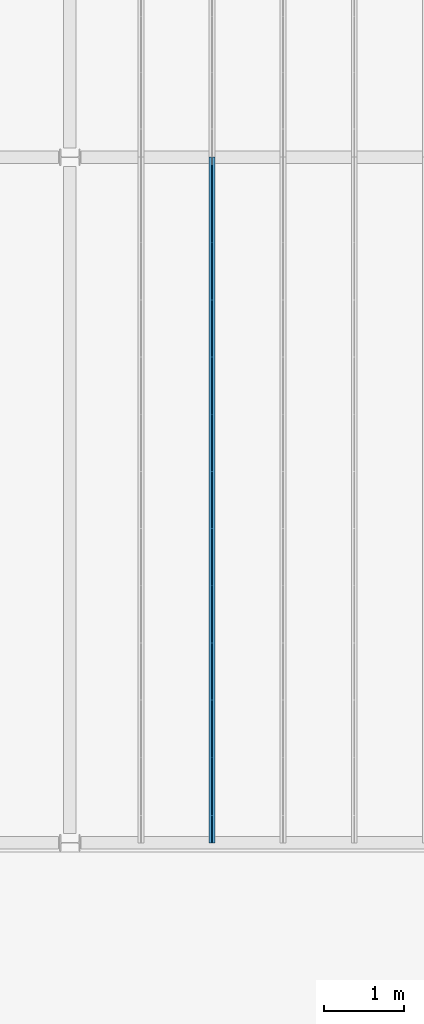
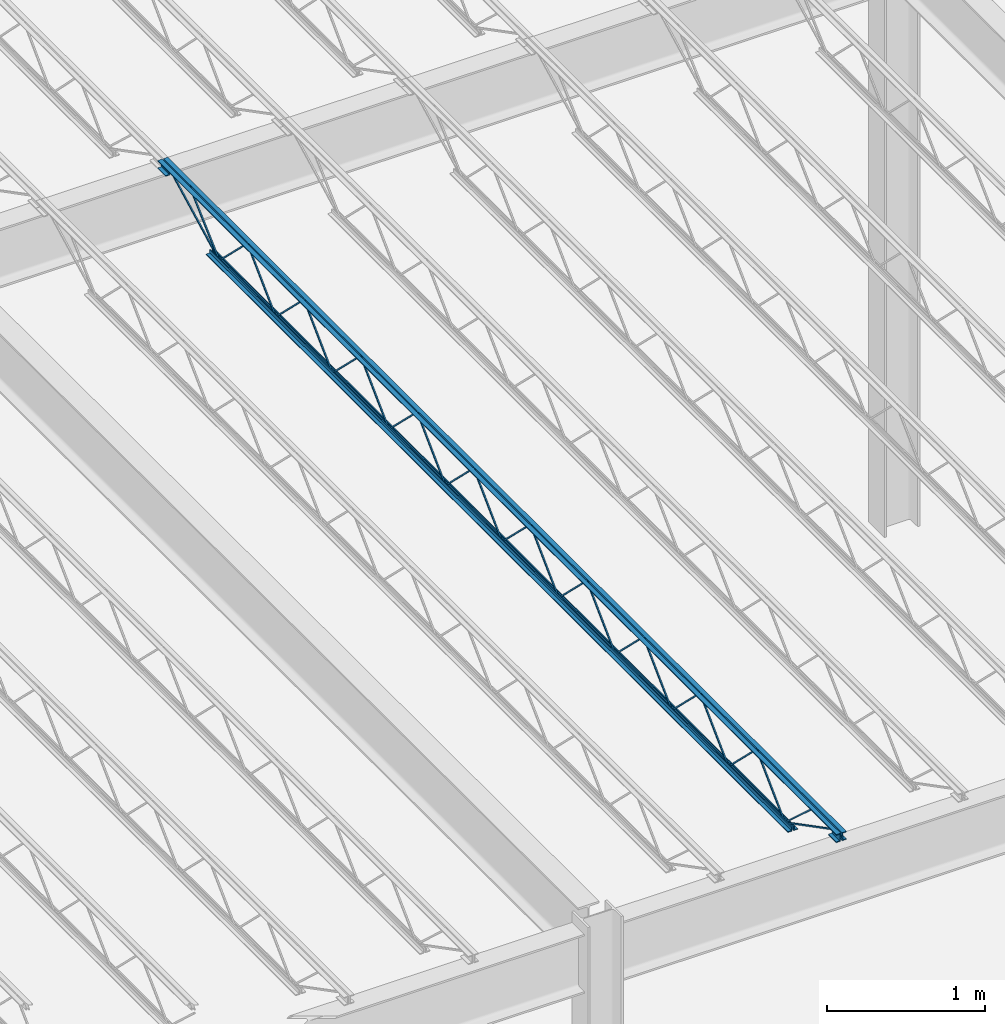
# One storey, part 27 of 119: 1 beam.
"""IFC2X3 building model written with IfcOpenShell, lengths in metres."""

from ifc_helpers import new_model, entity, si_unit, converted_unit, frame, origin, place, context, project, spatial, face_set, surface_model, element, save


model = new_model("IFC2X3")

# Units and contexts
model_context = context("Model", 3, precision=1e-09, world=origin())
plan_context = context("Plan", 3, precision=1e-09, world=origin())
ifc_project = project(units=[si_unit("LENGTHUNIT", "METRE"), si_unit("AREAUNIT", "SQUARE_METRE"), si_unit("VOLUMEUNIT", "CUBIC_METRE"), converted_unit("PLANEANGLEUNIT", "DEGREE", entity("IfcRatioMeasure", 0.01745329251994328), si_unit("PLANEANGLEUNIT", "RADIAN"), dimensions=[0, 0, 0, 0, 0, 0, 0]), si_unit("TIMEUNIT", "SECOND")], contexts=[model_context, plan_context])

# Site, building, storey
site_placement = place(None, origin())
site = spatial("IfcSite", under=ifc_project, at=site_placement, Name="Default", CompositionType="ELEMENT")
building_placement = place(site_placement, origin())
building = spatial("IfcBuilding", under=site, at=building_placement, CompositionType="ELEMENT")
storey_placement = place(building_placement, frame((0.0, 0.0, 4.570000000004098)))
storey = spatial("IfcBuildingStorey", under=building, at=storey_placement, Name="Second Floor", CompositionType="ELEMENT", Elevation=4.570000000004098)

# Beam
beam_placement = place(storey_placement, frame((-38.91925000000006, 10.04000000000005, 4.323999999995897)))
element("IfcBeam", 1, at=beam_placement, inside=storey, Name="M_K-Series Bar Joist-Rod Web:14K1:14K1", ObjectType="M_K-Series Bar Joist-Rod Web:14K1", context=model_context, shape_type="SurfaceModel", body=[
    surface_model("IfcFaceBasedSurfaceModel", [(0.04150000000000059, 6.428799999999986, 0.01110000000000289), (0.03200000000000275, 6.428799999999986, 0.01110000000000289), (0.03200000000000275, 6.428799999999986, 0.001600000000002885), (0.04150000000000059, 6.428799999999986, 0.001600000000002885), (0.03200000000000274, 6.430038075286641, 0.01110000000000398), (0.04150000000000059, 6.430038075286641, 0.01110000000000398), (0.03200000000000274, 6.433911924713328, 0.001600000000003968), (0.03200000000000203, 6.784861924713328, 0.3449000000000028), (0.03200000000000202, 6.78733807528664, 0.3449000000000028), (0.03200000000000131, 7.138288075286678, 0.001600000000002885), (0.0320000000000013, 7.143399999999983, 0.001600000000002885), (0.0320000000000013, 7.143399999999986, 0.01110000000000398), (0.03200000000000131, 7.142161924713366, 0.01110000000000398), (0.03200000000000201, 6.79121192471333, 0.3544000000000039), (0.03200000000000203, 6.780988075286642, 0.3544000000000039), (0.04150000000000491, 6.433911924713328, 0.001600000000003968), (0.04149999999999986, 6.784861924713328, 0.3449000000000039), (0.04149999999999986, 6.787338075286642, 0.3449000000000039), (0.04149999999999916, 7.138288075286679, 0.001600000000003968), (0.04149999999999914, 7.143399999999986, 0.001600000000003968), (0.04149999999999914, 7.143399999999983, 0.01110000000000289), (0.04149999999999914, 7.142161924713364, 0.01110000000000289), (0.04149999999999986, 6.791211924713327, 0.3544000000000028), (0.04149999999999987, 6.780988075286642, 0.3544000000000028), (0.04150000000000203, 5.714199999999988, 0.01110000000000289), (0.03200000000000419, 5.714199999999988, 0.01110000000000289), (0.03200000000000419, 5.714199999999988, 0.001600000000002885), (0.04150000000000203, 5.714199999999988, 0.001600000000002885), (0.03200000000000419, 5.715438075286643, 0.01110000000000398), (0.04150000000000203, 5.715438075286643, 0.01110000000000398), (0.03200000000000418, 5.71931192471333, 0.001600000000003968), (0.03200000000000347, 6.07026192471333, 0.3449000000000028), (0.03200000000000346, 6.072738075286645, 0.3449000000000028), (0.03200000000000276, 6.423688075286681, 0.001600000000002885), (0.03200000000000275, 6.428799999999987, 0.001600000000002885), (0.03200000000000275, 6.428799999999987, 0.01110000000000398), (0.03200000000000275, 6.427561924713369, 0.01110000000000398), (0.03200000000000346, 6.076611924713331, 0.3544000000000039), (0.03200000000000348, 6.066388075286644, 0.3544000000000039), (0.04150000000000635, 5.71931192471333, 0.001600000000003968), (0.04150000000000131, 6.07026192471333, 0.3449000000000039), (0.0415000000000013, 6.072738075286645, 0.3449000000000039), (0.0415000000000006, 6.423688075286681, 0.001600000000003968), (0.04150000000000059, 6.428799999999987, 0.001600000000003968), (0.04150000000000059, 6.428799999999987, 0.01110000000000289), (0.04150000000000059, 6.427561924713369, 0.01110000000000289), (0.0415000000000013, 6.076611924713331, 0.3544000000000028), (0.04150000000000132, 6.066388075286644, 0.3544000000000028), (0.04149999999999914, 4.999599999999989, 0.01110000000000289), (0.03200000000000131, 4.999599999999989, 0.01110000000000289), (0.03200000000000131, 4.999599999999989, 0.001600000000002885), (0.04149999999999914, 4.999599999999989, 0.001600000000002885), (0.0320000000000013, 5.000838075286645, 0.01110000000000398), (0.04149999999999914, 5.000838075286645, 0.01110000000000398), (0.03200000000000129, 5.004711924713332, 0.001600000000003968), (0.03200000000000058, 5.355661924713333, 0.3449000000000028), (0.03200000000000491, 5.358138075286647, 0.3449000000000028), (0.0320000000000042, 5.709088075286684, 0.001600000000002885), (0.03200000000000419, 5.714199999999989, 0.001600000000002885), (0.03199999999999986, 5.714199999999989, 0.01110000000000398), (0.03199999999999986, 5.712961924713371, 0.01110000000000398), (0.03200000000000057, 5.362011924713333, 0.3544000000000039), (0.03200000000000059, 5.351788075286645, 0.3544000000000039), (0.04150000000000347, 5.004711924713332, 0.001600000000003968), (0.04149999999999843, 5.355661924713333, 0.3449000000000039), (0.04149999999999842, 5.358138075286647, 0.3449000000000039), (0.04149999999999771, 5.709088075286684, 0.001600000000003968), (0.0414999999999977, 5.714199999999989, 0.001600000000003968), (0.04150000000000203, 5.714199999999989, 0.01110000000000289), (0.04150000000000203, 5.712961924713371, 0.01110000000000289), (0.04150000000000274, 5.362011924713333, 0.3544000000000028), (0.04149999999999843, 5.351788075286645, 0.3544000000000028), (0.04150000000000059, 4.284999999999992, 0.01110000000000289), (0.03200000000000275, 4.284999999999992, 0.01110000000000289), (0.03200000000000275, 4.284999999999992, 0.001600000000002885), (0.04150000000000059, 4.284999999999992, 0.001600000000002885), (0.03200000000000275, 4.286238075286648, 0.01110000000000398), (0.04150000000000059, 4.286238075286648, 0.01110000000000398), (0.03200000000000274, 4.290111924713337, 0.001600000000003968), (0.03200000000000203, 4.641061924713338, 0.3449000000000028), (0.03200000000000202, 4.643538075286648, 0.3449000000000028), (0.03200000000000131, 4.994488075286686, 0.001600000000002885), (0.03200000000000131, 4.999599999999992, 0.001600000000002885), (0.03200000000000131, 4.999599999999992, 0.01110000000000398), (0.03200000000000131, 4.998361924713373, 0.01110000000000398), (0.03200000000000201, 4.647411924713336, 0.3544000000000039), (0.03200000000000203, 4.637188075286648, 0.3544000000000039), (0.04150000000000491, 4.290111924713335, 0.001600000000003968), (0.04149999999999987, 4.641061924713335, 0.3449000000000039), (0.04149999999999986, 4.643538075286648, 0.3449000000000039), (0.04149999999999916, 4.994488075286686, 0.001600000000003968), (0.04149999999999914, 4.999599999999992, 0.001600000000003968), (0.04149999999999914, 4.999599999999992, 0.01110000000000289), (0.04149999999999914, 4.998361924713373, 0.01110000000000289), (0.04149999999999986, 4.647411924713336, 0.3544000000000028), (0.04149999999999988, 4.637188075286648, 0.3544000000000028), (0.04150000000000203, 3.570399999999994, 0.01110000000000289), (0.03200000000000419, 3.570399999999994, 0.01110000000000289), (0.03200000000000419, 3.570399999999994, 0.001600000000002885), (0.04150000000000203, 3.570399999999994, 0.001600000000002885), (0.03200000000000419, 3.57163807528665, 0.01110000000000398), (0.04150000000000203, 3.57163807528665, 0.01110000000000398), (0.03200000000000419, 3.575511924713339, 0.001600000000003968), (0.03200000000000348, 3.926461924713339, 0.3449000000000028), (0.03200000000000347, 3.928938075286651, 0.3449000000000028), (0.03200000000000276, 4.279888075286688, 0.001600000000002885), (0.03200000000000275, 4.284999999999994, 0.001600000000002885), (0.03200000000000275, 4.284999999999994, 0.01110000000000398), (0.03200000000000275, 4.283761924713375, 0.01110000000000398), (0.03200000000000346, 3.932811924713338, 0.3544000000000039), (0.03200000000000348, 3.92258807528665, 0.3544000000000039), (0.04150000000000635, 3.575511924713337, 0.001600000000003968), (0.04150000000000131, 3.926461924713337, 0.3449000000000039), (0.04150000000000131, 3.928938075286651, 0.3449000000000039), (0.0415000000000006, 4.279888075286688, 0.001600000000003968), (0.04150000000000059, 4.284999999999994, 0.001600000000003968), (0.04150000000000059, 4.284999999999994, 0.01110000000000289), (0.04150000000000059, 4.283761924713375, 0.01110000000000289), (0.0415000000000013, 3.93281192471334, 0.3544000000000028), (0.04150000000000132, 3.922588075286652, 0.3544000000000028), (0.04149999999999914, 2.855799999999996, 0.01110000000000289), (0.03200000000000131, 2.855799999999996, 0.01110000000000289), (0.03200000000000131, 2.855799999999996, 0.001600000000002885), (0.04149999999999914, 2.855799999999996, 0.001600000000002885), (0.03200000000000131, 2.857038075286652, 0.01110000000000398), (0.04149999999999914, 2.857038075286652, 0.01110000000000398), (0.0320000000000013, 2.860911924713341, 0.001600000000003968), (0.03200000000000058, 3.211861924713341, 0.3449000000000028), (0.03200000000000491, 3.214338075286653, 0.3449000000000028), (0.0320000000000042, 3.56528807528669, 0.001600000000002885), (0.03200000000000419, 3.570399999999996, 0.001600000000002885), (0.03199999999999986, 3.570399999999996, 0.01110000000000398), (0.03199999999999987, 3.569161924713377, 0.01110000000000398), (0.03200000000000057, 3.21821192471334, 0.3544000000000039), (0.03200000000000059, 3.207988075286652, 0.3544000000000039), (0.04150000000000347, 2.860911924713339, 0.001600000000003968), (0.04149999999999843, 3.21186192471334, 0.3449000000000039), (0.04149999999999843, 3.214338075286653, 0.3449000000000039), (0.04149999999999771, 3.56528807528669, 0.001600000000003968), (0.0414999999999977, 3.570399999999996, 0.001600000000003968), (0.04150000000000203, 3.570399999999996, 0.01110000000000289), (0.04150000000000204, 3.569161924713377, 0.01110000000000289), (0.04150000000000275, 3.218211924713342, 0.3544000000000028), (0.04149999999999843, 3.207988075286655, 0.3544000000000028), (0.04150000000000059, 2.1412, 0.01110000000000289), (0.03200000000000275, 2.1412, 0.01110000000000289), (0.03200000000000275, 2.1412, 0.001600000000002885), (0.04150000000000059, 2.1412, 0.001600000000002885), (0.03200000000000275, 2.142438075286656, 0.01110000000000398), (0.04150000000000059, 2.142438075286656, 0.01110000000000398), (0.03200000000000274, 2.146311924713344, 0.001600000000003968), (0.03200000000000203, 2.497261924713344, 0.3449000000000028), (0.03200000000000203, 2.499738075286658, 0.3449000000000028), (0.03200000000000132, 2.850688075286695, 0.001600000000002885), (0.03200000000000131, 2.8558, 0.001600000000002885), (0.03200000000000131, 2.8558, 0.01110000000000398), (0.03200000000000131, 2.854561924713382, 0.01110000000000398), (0.03200000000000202, 2.503611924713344, 0.3544000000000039), (0.03200000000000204, 2.493388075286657, 0.3544000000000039), (0.04150000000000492, 2.146311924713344, 0.001600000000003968), (0.04149999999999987, 2.497261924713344, 0.3449000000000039), (0.04149999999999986, 2.499738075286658, 0.3449000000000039), (0.04149999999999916, 2.850688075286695, 0.001600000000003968), (0.04149999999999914, 2.8558, 0.001600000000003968), (0.04149999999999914, 2.8558, 0.01110000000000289), (0.04149999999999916, 2.854561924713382, 0.01110000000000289), (0.04149999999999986, 2.503611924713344, 0.3544000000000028), (0.04149999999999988, 2.493388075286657, 0.3544000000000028), (0.04150000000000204, 1.426600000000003, 0.01110000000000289), (0.0320000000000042, 1.426600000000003, 0.01110000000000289), (0.0320000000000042, 1.426600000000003, 0.001600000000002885), (0.04150000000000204, 1.426600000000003, 0.001600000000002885), (0.03200000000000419, 1.427838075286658, 0.01110000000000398), (0.04150000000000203, 1.427838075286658, 0.01110000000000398), (0.03200000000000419, 1.431711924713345, 0.001600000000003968), (0.03200000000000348, 1.782661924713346, 0.3449000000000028), (0.03200000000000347, 1.78513807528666, 0.3449000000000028), (0.03200000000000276, 2.136088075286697, 0.001600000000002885), (0.03200000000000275, 2.141200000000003, 0.001600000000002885), (0.03200000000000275, 2.141200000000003, 0.01110000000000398), (0.03200000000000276, 2.139961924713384, 0.01110000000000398), (0.03200000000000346, 1.789011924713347, 0.3544000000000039), (0.03200000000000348, 1.778788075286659, 0.3544000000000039), (0.04150000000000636, 1.431711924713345, 0.001600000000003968), (0.04150000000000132, 1.782661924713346, 0.3449000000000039), (0.04150000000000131, 1.78513807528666, 0.3449000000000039), (0.0415000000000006, 2.136088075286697, 0.001600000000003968), (0.04150000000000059, 2.141200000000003, 0.001600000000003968), (0.04150000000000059, 2.141200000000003, 0.01110000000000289), (0.04150000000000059, 2.139961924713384, 0.01110000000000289), (0.0415000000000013, 1.789011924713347, 0.3544000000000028), (0.04150000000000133, 1.778788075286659, 0.3544000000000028), (0.04149999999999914, 7.143399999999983, 0.01109999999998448), (0.0320000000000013, 7.143399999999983, 0.01109999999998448), (0.0320000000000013, 7.143399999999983, 0.001599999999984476), (0.04149999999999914, 7.143399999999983, 0.001599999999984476), (0.03200000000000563, 7.144638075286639, 0.01109999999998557), (0.04150000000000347, 7.144638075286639, 0.01109999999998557), (0.03200000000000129, 7.148511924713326, 0.001599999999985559), (0.03200000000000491, 7.499461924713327, 0.3448999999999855), (0.03200000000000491, 7.501938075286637, 0.3448999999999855), (0.0320000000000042, 7.852888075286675, 0.001599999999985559), (0.03200000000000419, 7.857999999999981, 0.001599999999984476), (0.03199999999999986, 7.857999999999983, 0.01109999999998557), (0.03199999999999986, 7.856761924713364, 0.01109999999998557), (0.03200000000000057, 7.505811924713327, 0.3543999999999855), (0.03200000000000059, 7.495588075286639, 0.3543999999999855), (0.04150000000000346, 7.148511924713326, 0.001599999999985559), (0.04150000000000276, 7.499461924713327, 0.3448999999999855), (0.04150000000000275, 7.50193807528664, 0.3448999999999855), (0.04150000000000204, 7.852888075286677, 0.001599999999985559), (0.04150000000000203, 7.857999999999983, 0.001599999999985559), (0.04150000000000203, 7.857999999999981, 0.01109999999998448), (0.04150000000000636, 7.856761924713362, 0.01109999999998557), (0.04150000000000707, 7.505811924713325, 0.3543999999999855), (0.04150000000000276, 7.495588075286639, 0.3543999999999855), (0.04149999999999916, 0.712000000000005, 0.01110000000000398), (0.03200000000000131, 0.712000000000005, 0.01110000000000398), (0.03200000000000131, 0.712000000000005, 0.001600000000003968), (0.04149999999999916, 0.712000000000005, 0.001600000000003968), (0.03200000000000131, 0.7132380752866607, 0.01110000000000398), (0.04149999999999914, 0.7132380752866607, 0.01110000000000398), (0.0320000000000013, 0.7171119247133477, 0.001600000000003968), (0.03200000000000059, 1.068061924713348, 0.3449000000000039), (0.03200000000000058, 1.070538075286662, 0.3449000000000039), (0.03200000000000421, 1.421488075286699, 0.001600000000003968), (0.0320000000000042, 1.426600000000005, 0.001600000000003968), (0.03199999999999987, 1.426600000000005, 0.01110000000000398), (0.03199999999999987, 1.425361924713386, 0.01110000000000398), (0.03200000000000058, 1.074411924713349, 0.3544000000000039), (0.0320000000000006, 1.064188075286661, 0.3544000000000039), (0.04150000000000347, 0.7171119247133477, 0.001600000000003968), (0.04149999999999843, 1.068061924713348, 0.3449000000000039), (0.04149999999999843, 1.070538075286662, 0.3449000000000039), (0.04149999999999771, 1.421488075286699, 0.001600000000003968), (0.04149999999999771, 1.426600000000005, 0.001600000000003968), (0.04150000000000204, 1.426600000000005, 0.01110000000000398), (0.04150000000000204, 1.425361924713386, 0.01110000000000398), (0.04150000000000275, 1.074411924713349, 0.3544000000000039), (0.04149999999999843, 1.064188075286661, 0.3544000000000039), (0.03200000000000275, 8.57, 0.3559999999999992), (0.0, 8.57, 0.3559999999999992), (0.0, 8.57, 0.3494999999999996), (0.02550000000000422, 8.57, 0.3494999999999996), (0.02550000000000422, 8.57, 0.3239999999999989), (0.03200000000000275, 8.57, 0.3239999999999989), (0.04150000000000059, 8.57, 0.3559999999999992), (0.04150000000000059, 8.57, 0.3239999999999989), (0.04800000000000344, 8.57, 0.3239999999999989), (0.04800000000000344, 8.57, 0.3494999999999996), (0.07350000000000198, 8.57, 0.3494999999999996), (0.07350000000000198, 8.57, 0.3559999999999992), (0.03200000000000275, 0.0, 0.3559999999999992), (0.0, 0.0, 0.3559999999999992), (0.0, 0.0, 0.3494999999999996), (0.02550000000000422, 0.0, 0.3494999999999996), (0.02550000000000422, 0.0, 0.3239999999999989), (0.03200000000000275, 0.0, 0.3239999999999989), (0.04150000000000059, 0.0, 0.3559999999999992), (0.04150000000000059, 0.0, 0.3239999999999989), (0.04800000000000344, 0.0, 0.3239999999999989), (0.04800000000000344, 0.0, 0.3494999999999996), (0.07350000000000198, 0.0, 0.3494999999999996), (0.07350000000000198, 0.0, 0.3559999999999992), (0.04150000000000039, 0.09999999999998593, 0.2924999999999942), (0.07350000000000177, 0.09999999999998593, 0.2924999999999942), (0.07350000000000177, 0.09999999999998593, 0.2989999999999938), (0.04799999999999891, 0.09999999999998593, 0.2989999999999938), (0.04799999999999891, 0.09999999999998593, 0.3239999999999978), (0.04150000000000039, 0.09999999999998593, 0.3239999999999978), (0.0, 0.09999999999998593, 0.2924999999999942), (0.03200000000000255, 0.09999999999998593, 0.2924999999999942), (0.03200000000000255, 0.09999999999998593, 0.3239999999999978), (0.02549999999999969, 0.09999999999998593, 0.3239999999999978), (0.02549999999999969, 0.09999999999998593, 0.2989999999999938), (0.0, 0.09999999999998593, 0.2989999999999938), (0.04150000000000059, 0.0, 0.2924999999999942), (0.07350000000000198, 0.0, 0.2924999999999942), (0.07350000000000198, 0.0, 0.2989999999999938), (0.04799999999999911, 0.0, 0.2989999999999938), (0.04799999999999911, 0.0, 0.3239999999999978), (0.04150000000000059, 0.0, 0.3239999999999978), (0.0, 0.0, 0.2924999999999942), (0.03200000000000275, 0.0, 0.2924999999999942), (0.03200000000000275, 0.0, 0.3239999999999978), (0.02549999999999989, 0.0, 0.3239999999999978), (0.02549999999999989, 0.0, 0.2989999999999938), (0.0, 0.0, 0.2989999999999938), (0.03200000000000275, 8.57, 0.2924999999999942), (0.03200000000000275, 8.57, 0.3239999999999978), (0.02549999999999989, 8.57, 0.3239999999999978), (0.02549999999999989, 8.57, 0.2989999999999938), (0.0, 8.57, 0.2989999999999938), (0.0, 8.57, 0.2924999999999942), (0.04150000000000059, 8.57, 0.2924999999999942), (0.07350000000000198, 8.57, 0.2924999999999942), (0.07350000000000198, 8.57, 0.2989999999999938), (0.04799999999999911, 8.57, 0.2989999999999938), (0.04799999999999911, 8.57, 0.3239999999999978), (0.04150000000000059, 8.57, 0.3239999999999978), (0.03200000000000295, 8.47, 0.2924999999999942), (0.03200000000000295, 8.47, 0.3239999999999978), (0.0255000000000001, 8.47, 0.3239999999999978), (0.0255000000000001, 8.47, 0.2989999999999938), (0.0, 8.47, 0.2989999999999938), (0.0, 8.47, 0.2924999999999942), (0.04150000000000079, 8.47, 0.2924999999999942), (0.07350000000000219, 8.47, 0.2924999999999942), (0.07350000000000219, 8.47, 0.2989999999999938), (0.04799999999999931, 8.47, 0.2989999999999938), (0.04799999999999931, 8.47, 0.3239999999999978), (0.04150000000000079, 8.47, 0.3239999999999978), (0.03200000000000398, 7.958000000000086, 0.0), (0.03200000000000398, 7.958000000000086, 0.03199999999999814), (0.02550000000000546, 7.958000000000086, 0.03199999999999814), (0.02550000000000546, 7.958000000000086, 0.006499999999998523), (0.0, 7.958000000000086, 0.006499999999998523), (0.0, 7.958000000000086, 0.0), (0.04150000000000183, 7.958000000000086, 0.0), (0.07350000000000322, 7.958000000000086, 0.0), (0.07350000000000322, 7.958000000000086, 0.006499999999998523), (0.04800000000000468, 7.958000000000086, 0.006499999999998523), (0.04800000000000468, 7.958000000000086, 0.03199999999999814), (0.04150000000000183, 7.958000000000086, 0.03199999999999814), (0.03200000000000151, 0.6120000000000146, 0.0), (0.03200000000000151, 0.6120000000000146, 0.03199999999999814), (0.02550000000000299, 0.6120000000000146, 0.03199999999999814), (0.02550000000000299, 0.6120000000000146, 0.006499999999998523), (0.0, 0.6120000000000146, 0.006499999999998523), (0.0, 0.6120000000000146, 0.0), (0.04149999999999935, 0.6120000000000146, 0.0), (0.07350000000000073, 0.6120000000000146, 0.0), (0.07350000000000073, 0.6120000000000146, 0.006499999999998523), (0.0480000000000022, 0.6120000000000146, 0.006499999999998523), (0.0480000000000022, 0.6120000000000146, 0.03199999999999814), (0.04149999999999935, 0.6120000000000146, 0.03199999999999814), (0.04149999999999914, 0.7141882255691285, 0.01056594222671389), (0.03200000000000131, 0.7141882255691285, 0.01056594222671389), (0.03200000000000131, 0.7098117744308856, 0.002134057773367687), (0.04149999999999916, 0.7098117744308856, 0.00213405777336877), (0.04150000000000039, 0.1011592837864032, 0.3287499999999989), (0.04150000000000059, 0.0, 0.3287499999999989), (0.04150000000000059, 0.0, 0.3192499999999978), (0.04150000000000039, 0.09884071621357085, 0.3192499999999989), (0.03199999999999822, 0.09884071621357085, 0.3192499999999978), (0.03200000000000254, 0.1011592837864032, 0.3287499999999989), (0.03200000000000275, 0.0, 0.3287499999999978), (0.03200000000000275, 0.0, 0.3192499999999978), (0.04149999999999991, 0.3347428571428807, 0.3417000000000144), (0.03200000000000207, 0.3347428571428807, 0.3417000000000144), (0.03200000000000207, 0.3347428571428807, 0.3322000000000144), (0.04149999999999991, 0.3347428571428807, 0.3322000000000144), (0.03200000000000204, 0.349275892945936, 0.3417000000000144), (0.04149999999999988, 0.349275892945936, 0.3417000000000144), (0.03200000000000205, 0.3456098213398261, 0.3322000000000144), (0.03200000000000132, 0.7088091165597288, 0.002831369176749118), (0.03200000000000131, 0.7151908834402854, 0.009868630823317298), (0.04150000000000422, 0.3456098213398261, 0.3322000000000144), (0.04149999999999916, 0.7088091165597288, 0.002831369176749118), (0.04149999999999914, 0.7151908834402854, 0.009868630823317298), (0.04150000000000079, 8.472188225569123, 0.3197840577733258), (0.04150000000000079, 8.467811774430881, 0.328215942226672), (0.03200000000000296, 8.467811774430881, 0.328215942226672), (0.03200000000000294, 8.472188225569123, 0.3197840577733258), (0.04150000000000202, 7.860188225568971, 0.002134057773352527), (0.04150000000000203, 7.855811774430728, 0.01056594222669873), (0.03200000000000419, 7.855811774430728, 0.01056594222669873), (0.03200000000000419, 7.860188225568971, 0.002134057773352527), (0.04150000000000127, 8.233036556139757, 0.3461600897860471), (0.04150000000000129, 8.22659201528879, 0.3531399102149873), (0.03200000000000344, 8.22659201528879, 0.3531399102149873), (0.03200000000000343, 8.233036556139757, 0.3461600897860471), (0.04150000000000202, 7.861222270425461, 0.00286008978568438), (0.04150000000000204, 7.854777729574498, 0.009839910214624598), (0.03200000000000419, 7.854777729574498, 0.009839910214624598), (0.03200000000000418, 7.861222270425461, 0.00286008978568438)], [face_set([[[0, 1, 2, 3]], [[1, 4, 5, 0]], [[2, 6, 7, 8, 9, 10, 11, 12, 13, 14, 4, 1]], [[3, 2, 6, 15]], [[0, 3, 15, 16, 17, 18, 19, 20, 21, 22, 23, 5]], [[4, 5, 23, 14]], [[15, 16, 7, 6]], [[14, 13, 22, 23]], [[16, 7, 8, 17]], [[13, 12, 21, 22]], [[17, 8, 9, 18]], [[20, 11, 10, 19]], [[12, 11, 20, 21]], [[18, 9, 10, 19]]]), face_set([[[24, 25, 26, 27]], [[25, 28, 29, 24]], [[26, 30, 31, 32, 33, 34, 35, 36, 37, 38, 28, 25]], [[27, 26, 30, 39]], [[24, 27, 39, 40, 41, 42, 43, 44, 45, 46, 47, 29]], [[28, 29, 47, 38]], [[39, 40, 31, 30]], [[38, 37, 46, 47]], [[40, 31, 32, 41]], [[37, 36, 45, 46]], [[41, 32, 33, 42]], [[44, 35, 34, 43]], [[36, 35, 44, 45]], [[42, 33, 34, 43]]]), face_set([[[48, 49, 50, 51]], [[49, 52, 53, 48]], [[50, 54, 55, 56, 57, 58, 59, 60, 61, 62, 52, 49]], [[51, 50, 54, 63]], [[48, 51, 63, 64, 65, 66, 67, 68, 69, 70, 71, 53]], [[52, 53, 71, 62]], [[63, 64, 55, 54]], [[62, 61, 70, 71]], [[64, 55, 56, 65]], [[61, 60, 69, 70]], [[65, 56, 57, 66]], [[68, 59, 58, 67]], [[60, 59, 68, 69]], [[66, 57, 58, 67]]]), face_set([[[72, 73, 74, 75]], [[73, 76, 77, 72]], [[74, 78, 79, 80, 81, 82, 83, 84, 85, 86, 76, 73]], [[75, 74, 78, 87]], [[72, 75, 87, 88, 89, 90, 91, 92, 93, 94, 95, 77]], [[76, 77, 95, 86]], [[87, 88, 79, 78]], [[86, 85, 94, 95]], [[88, 79, 80, 89]], [[85, 84, 93, 94]], [[89, 80, 81, 90]], [[92, 83, 82, 91]], [[84, 83, 92, 93]], [[90, 81, 82, 91]]]), face_set([[[96, 97, 98, 99]], [[97, 100, 101, 96]], [[98, 102, 103, 104, 105, 106, 107, 108, 109, 110, 100, 97]], [[99, 98, 102, 111]], [[96, 99, 111, 112, 113, 114, 115, 116, 117, 118, 119, 101]], [[100, 101, 119, 110]], [[111, 112, 103, 102]], [[110, 109, 118, 119]], [[112, 103, 104, 113]], [[109, 108, 117, 118]], [[113, 104, 105, 114]], [[116, 107, 106, 115]], [[108, 107, 116, 117]], [[114, 105, 106, 115]]]), face_set([[[120, 121, 122, 123]], [[121, 124, 125, 120]], [[122, 126, 127, 128, 129, 130, 131, 132, 133, 134, 124, 121]], [[123, 122, 126, 135]], [[120, 123, 135, 136, 137, 138, 139, 140, 141, 142, 143, 125]], [[124, 125, 143, 134]], [[135, 136, 127, 126]], [[134, 133, 142, 143]], [[136, 127, 128, 137]], [[133, 132, 141, 142]], [[137, 128, 129, 138]], [[140, 131, 130, 139]], [[132, 131, 140, 141]], [[138, 129, 130, 139]]]), face_set([[[144, 145, 146, 147]], [[145, 148, 149, 144]], [[146, 150, 151, 152, 153, 154, 155, 156, 157, 158, 148, 145]], [[147, 146, 150, 159]], [[144, 147, 159, 160, 161, 162, 163, 164, 165, 166, 167, 149]], [[148, 149, 167, 158]], [[159, 160, 151, 150]], [[158, 157, 166, 167]], [[160, 151, 152, 161]], [[157, 156, 165, 166]], [[161, 152, 153, 162]], [[164, 155, 154, 163]], [[156, 155, 164, 165]], [[162, 153, 154, 163]]]), face_set([[[168, 169, 170, 171]], [[169, 172, 173, 168]], [[170, 174, 175, 176, 177, 178, 179, 180, 181, 182, 172, 169]], [[171, 170, 174, 183]], [[168, 171, 183, 184, 185, 186, 187, 188, 189, 190, 191, 173]], [[172, 173, 191, 182]], [[183, 184, 175, 174]], [[182, 181, 190, 191]], [[184, 175, 176, 185]], [[181, 180, 189, 190]], [[185, 176, 177, 186]], [[188, 179, 178, 187]], [[180, 179, 188, 189]], [[186, 177, 178, 187]]]), face_set([[[192, 193, 194, 195]], [[193, 196, 197, 192]], [[194, 198, 199, 200, 201, 202, 203, 204, 205, 206, 196, 193]], [[195, 194, 198, 207]], [[192, 195, 207, 208, 209, 210, 211, 212, 213, 214, 215, 197]], [[196, 197, 215, 206]], [[207, 208, 199, 198]], [[206, 205, 214, 215]], [[208, 199, 200, 209]], [[205, 204, 213, 214]], [[209, 200, 201, 210]], [[212, 203, 202, 211]], [[204, 203, 212, 213]], [[210, 201, 202, 211]]]), face_set([[[216, 217, 218, 219]], [[217, 220, 221, 216]], [[218, 222, 223, 224, 225, 226, 227, 228, 229, 230, 220, 217]], [[219, 218, 222, 231]], [[216, 219, 231, 232, 233, 234, 235, 236, 237, 238, 239, 221]], [[220, 221, 239, 230]], [[231, 232, 223, 222]], [[230, 229, 238, 239]], [[232, 223, 224, 233]], [[229, 228, 237, 238]], [[233, 224, 225, 234]], [[236, 227, 226, 235]], [[228, 227, 236, 237]], [[234, 225, 226, 235]]]), face_set([[[240, 241, 242, 243, 244, 245]], [[246, 247, 248, 249, 250, 251]], [[252, 253, 254, 255, 256, 257]], [[258, 259, 260, 261, 262, 263]], [[245, 240, 252, 257]], [[244, 245, 257, 256]], [[243, 255, 256, 244]], [[242, 243, 255, 254]], [[241, 253, 254, 242]], [[240, 252, 253, 241]], [[251, 263, 258, 246]], [[250, 251, 263, 262]], [[249, 250, 262, 261]], [[248, 249, 261, 260]], [[247, 248, 260, 259]], [[246, 258, 259, 247]]]), face_set([[[264, 265, 266, 267, 268, 269]], [[270, 271, 272, 273, 274, 275]], [[276, 277, 278, 279, 280, 281]], [[282, 283, 284, 285, 286, 287]], [[269, 281, 276, 264]], [[268, 280, 281, 269]], [[267, 268, 280, 279]], [[266, 278, 279, 267]], [[265, 266, 278, 277]], [[264, 265, 277, 276]], [[275, 287, 282, 270]], [[274, 286, 287, 275]], [[273, 285, 286, 274]], [[272, 284, 285, 273]], [[271, 272, 284, 283]], [[270, 271, 283, 282]]]), face_set([[[288, 289, 290, 291, 292, 293]], [[294, 295, 296, 297, 298, 299]], [[300, 301, 302, 303, 304, 305]], [[306, 307, 308, 309, 310, 311]], [[293, 288, 300, 305]], [[292, 304, 305, 293]], [[291, 303, 304, 292]], [[290, 302, 303, 291]], [[289, 301, 302, 290]], [[288, 289, 301, 300]], [[299, 311, 306, 294]], [[298, 310, 311, 299]], [[297, 298, 310, 309]], [[296, 308, 309, 297]], [[295, 296, 308, 307]], [[294, 295, 307, 306]]]), face_set([[[312, 313, 314, 315, 316, 317]], [[318, 319, 320, 321, 322, 323]], [[324, 325, 326, 327, 328, 329]], [[330, 331, 332, 333, 334, 335]], [[317, 312, 324, 329]], [[316, 328, 329, 317]], [[315, 327, 328, 316]], [[314, 326, 327, 315]], [[313, 325, 326, 314]], [[312, 313, 325, 324]], [[323, 335, 330, 318]], [[322, 334, 335, 323]], [[321, 322, 334, 333]], [[320, 332, 333, 321]], [[319, 320, 332, 331]], [[318, 319, 331, 330]]]), face_set([[[336, 337, 338, 339]], [[339, 336, 340, 341, 342, 343]], [[338, 339, 343, 344]], [[337, 345, 346, 347, 344, 338]], [[336, 340, 345, 337]], [[341, 346, 347, 342]], [[344, 343, 342, 347]], [[340, 341, 346, 345]]]), face_set([[[348, 349, 350, 351]], [[349, 352, 353, 348]], [[350, 354, 355, 356, 352, 349]], [[351, 350, 354, 357]], [[348, 351, 357, 358, 359, 353]], [[359, 356, 355, 358]], [[352, 356, 359, 353]], [[357, 354, 355, 358]]]), face_set([[[360, 361, 362, 363]], [[364, 365, 366, 367]], [[363, 360, 364, 367]], [[362, 366, 367, 363]], [[361, 365, 366, 362]], [[360, 361, 365, 364]]]), face_set([[[368, 369, 370, 371]], [[372, 373, 374, 375]], [[371, 375, 372, 368]], [[370, 374, 375, 371]], [[369, 370, 374, 373]], [[368, 369, 373, 372]]])]),
])

save(model, "model.ifc")
